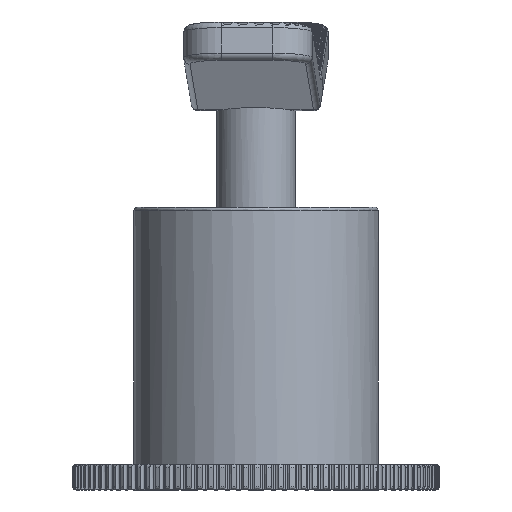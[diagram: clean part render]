
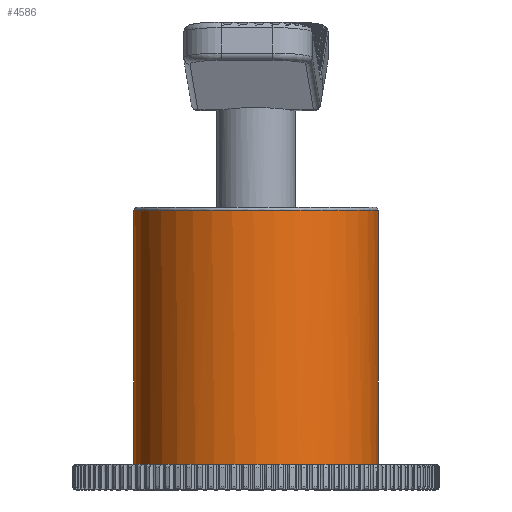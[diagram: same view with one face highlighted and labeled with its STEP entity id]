
A CAD part, front view. The second image highlights one B-rep face of the part: STEP entity #4586.
In plain terms, the highlighted cylindrical face has radius 19 mm (diameter 38 mm), a full revolution.
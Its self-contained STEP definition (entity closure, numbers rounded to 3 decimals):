
#768 = CARTESIAN_POINT ( 'NONE',  ( 102.726, -218.399, -48.633 ) ) ;
#843 = DIRECTION ( 'NONE',  ( 0., 0., -1. ) ) ;
#900 = CARTESIAN_POINT ( 'NONE',  ( 104.036, -222.091, -47.856 ) ) ;
#2037 = EDGE_CURVE ( 'NONE', #3156, #3156, #14022, .T. ) ;
#2269 = CARTESIAN_POINT ( 'NONE',  ( 104.067, -222.223, -51.958 ) ) ;
#2538 = CARTESIAN_POINT ( 'NONE',  ( 103.475, -220.205, -52.595 ) ) ;
#2671 = CARTESIAN_POINT ( 'NONE',  ( 103.18, -219.431, -52.343 ) ) ;
#2805 = CARTESIAN_POINT ( 'NONE',  ( 103.299, -219.731, -47.448 ) ) ;
#2939 = CARTESIAN_POINT ( 'NONE',  ( 102.609, -218.158, -50.65 ) ) ;
#3012 = DIRECTION ( 'NONE',  ( 0., 1., 0. ) ) ;
#3027 = CARTESIAN_POINT ( 'NONE',  ( 85.568, -207.561, -35.662 ) ) ;
#3068 = CARTESIAN_POINT ( 'NONE',  ( 102.855, -218.675, -51.713 ) ) ;
#3156 = VERTEX_POINT ( 'NONE', #15495 ) ;
#4050 = AXIS2_PLACEMENT_3D ( 'NONE', #10877, #843, #3012 ) ;
#4574 = CARTESIAN_POINT ( 'NONE',  ( 103.841, -221.352, -47.448 ) ) ;
#4586 = ADVANCED_FACE ( 'NONE', ( #19407, #21044, #8726 ), #13315, .T. ) ;
#4705 = CARTESIAN_POINT ( 'NONE',  ( 102.571, -218.081, -50.136 ) ) ;
#4837 = CARTESIAN_POINT ( 'NONE',  ( 104.252, -223.107, -50.136 ) ) ;
#4968 = CARTESIAN_POINT ( 'NONE',  ( 103.794, -221.191, -47.397 ) ) ;
#5101 = CARTESIAN_POINT ( 'NONE',  ( 104.236, -223.023, -49.274 ) ) ;
#5193 = CARTESIAN_POINT ( 'NONE',  ( 85.568, -207.561, -75.162 ) ) ;
#6610 = CARTESIAN_POINT ( 'NONE',  ( 102.726, -218.398, -51.29 ) ) ;
#6742 = CARTESIAN_POINT ( 'NONE',  ( 104.249, -223.09, -49.613 ) ) ;
#6769 = AXIS2_PLACEMENT_3D ( 'NONE', #18712, #25385, #14393 ) ;
#6877 = CARTESIAN_POINT ( 'NONE',  ( 104.121, -222.46, -48.21 ) ) ;
#7013 = CARTESIAN_POINT ( 'NONE',  ( 102.578, -218.096, -50.308 ) ) ;
#7151 = CARTESIAN_POINT ( 'NONE',  ( 103.01, -219.024, -47.856 ) ) ;
#7344 = DIRECTION ( 'NONE',  ( 0., 1., 0. ) ) ;
#8513 = CARTESIAN_POINT ( 'NONE',  ( 104.145, -222.572, -51.577 ) ) ;
#8647 = CARTESIAN_POINT ( 'NONE',  ( 104.252, -223.107, -49.786 ) ) ;
#8726 = FACE_OUTER_BOUND ( 'NONE', #8969, .T. ) ;
#8908 = CARTESIAN_POINT ( 'NONE',  ( 103.122, -219.289, -47.664 ) ) ;
#8934 = CIRCLE ( 'NONE', #6769, 19. ) ;
#8969 = EDGE_LOOP ( 'NONE', ( #21852 ) ) ;
#8975 = CARTESIAN_POINT ( 'NONE',  ( 85.568, -226.561, -75.162 ) ) ;
#9046 = CARTESIAN_POINT ( 'NONE',  ( 103.533, -220.371, -47.312 ) ) ;
#9182 = CARTESIAN_POINT ( 'NONE',  ( 102.956, -218.901, -47.965 ) ) ;
#9767 = EDGE_LOOP ( 'NONE', ( #14508 ) ) ;
#10353 = EDGE_CURVE ( 'NONE', #25830, #25830, #25951, .T. ) ;
#10800 = CARTESIAN_POINT ( 'NONE',  ( 103.532, -220.368, -52.612 ) ) ;
#10877 = CARTESIAN_POINT ( 'NONE',  ( 85.568, -226.561, -35.162 ) ) ;
#11074 = CARTESIAN_POINT ( 'NONE',  ( 103.926, -221.66, -47.58 ) ) ;
#11208 = CARTESIAN_POINT ( 'NONE',  ( 104.201, -222.84, -48.785 ) ) ;
#11337 = CARTESIAN_POINT ( 'NONE',  ( 102.955, -218.899, -51.957 ) ) ;
#12571 = CARTESIAN_POINT ( 'NONE',  ( 103.695, -220.866, -52.595 ) ) ;
#12838 = CARTESIAN_POINT ( 'NONE',  ( 104.145, -222.57, -48.346 ) ) ;
#12969 = CARTESIAN_POINT ( 'NONE',  ( 104.184, -222.76, -48.633 ) ) ;
#13100 = CARTESIAN_POINT ( 'NONE',  ( 103.475, -220.205, -47.33 ) ) ;
#13139 = ORIENTED_EDGE ( 'NONE', *, *, #10353, .T. ) ;
#13239 = CARTESIAN_POINT ( 'NONE',  ( 102.69, -218.324, -48.788 ) ) ;
#13315 = CYLINDRICAL_SURFACE ( 'NONE', #4050, 19. ) ;
#13379 = CARTESIAN_POINT ( 'NONE',  ( 102.855, -218.674, -48.212 ) ) ;
#14022 = B_SPLINE_CURVE_WITH_KNOTS ( 'NONE', 3,
 ( #22759, #18656, #12571, #16625, #24926, #14608, #22892, #20830, #2269, #18793, #8513, #15270, #23291, #19324, #21378, #23423, #4837, #8647, #6742, #5101, #21657, #11208, #12969, #12838, #6877, #19467, #900, #15400, #11074, #4574, #4968, #15139, #25598, #9046, #13100, #25195, #2805, #23558, #8908, #7151, #9182, #13379, #16895, #768, #13239, #23695, #15003, #17287, #21521, #4705, #7013, #2939, #17419, #25737, #6610, #21237, #3068, #11337, #19592, #14870, #2671, #23157, #21102, #2538, #10800, #19055 ),
 .UNSPECIFIED., .T., .F.,
 ( 4, 2, 2, 2, 2, 2, 2, 2, 2, 2, 2, 2, 2, 2, 2, 2, 2, 2, 2, 2, 2, 2, 2, 2, 2, 2, 2, 2, 2, 2, 2, 2, 4 ),
 ( 0., 0.001, 0.001, 0.002, 0.002, 0.003, 0.003, 0.004, 0.004, 0.005, 0.005, 0.006, 0.006, 0.007, 0.007, 0.008, 0.008, 0.009, 0.009, 0.01, 0.01, 0.011, 0.011, 0.012, 0.013, 0.013, 0.014, 0.014, 0.015, 0.015, 0.016, 0.016, 0.017 ),
 .UNSPECIFIED. ) ;
#14393 = DIRECTION ( 'NONE',  ( 0., 1., 0. ) ) ;
#14508 = ORIENTED_EDGE ( 'NONE', *, *, #2037, .T. ) ;
#14608 = CARTESIAN_POINT ( 'NONE',  ( 103.927, -221.662, -52.343 ) ) ;
#14870 = CARTESIAN_POINT ( 'NONE',  ( 103.122, -219.29, -52.262 ) ) ;
#15003 = CARTESIAN_POINT ( 'NONE',  ( 102.609, -218.158, -49.274 ) ) ;
#15139 = CARTESIAN_POINT ( 'NONE',  ( 103.695, -220.863, -47.329 ) ) ;
#15270 = CARTESIAN_POINT ( 'NONE',  ( 104.185, -222.761, -51.289 ) ) ;
#15400 = CARTESIAN_POINT ( 'NONE',  ( 103.965, -221.809, -47.662 ) ) ;
#15495 = CARTESIAN_POINT ( 'NONE',  ( 103.587, -220.534, -52.612 ) ) ;
#16625 = CARTESIAN_POINT ( 'NONE',  ( 103.795, -221.193, -52.527 ) ) ;
#16895 = CARTESIAN_POINT ( 'NONE',  ( 102.808, -218.574, -48.346 ) ) ;
#17287 = CARTESIAN_POINT ( 'NONE',  ( 102.579, -218.097, -49.614 ) ) ;
#17419 = CARTESIAN_POINT ( 'NONE',  ( 102.632, -218.204, -50.817 ) ) ;
#17987 = EDGE_CURVE ( 'NONE', #23381, #23381, #8934, .T. ) ;
#18656 = CARTESIAN_POINT ( 'NONE',  ( 103.643, -220.701, -52.612 ) ) ;
#18712 = CARTESIAN_POINT ( 'NONE',  ( 85.568, -226.561, -35.662 ) ) ;
#18793 = CARTESIAN_POINT ( 'NONE',  ( 104.121, -222.462, -51.713 ) ) ;
#19055 = CARTESIAN_POINT ( 'NONE',  ( 103.587, -220.534, -52.612 ) ) ;
#19252 = EDGE_LOOP ( 'NONE', ( #13139 ) ) ;
#19324 = CARTESIAN_POINT ( 'NONE',  ( 104.227, -222.973, -50.816 ) ) ;
#19407 = FACE_BOUND ( 'NONE', #9767, .T. ) ;
#19467 = CARTESIAN_POINT ( 'NONE',  ( 104.066, -222.221, -47.965 ) ) ;
#19592 = CARTESIAN_POINT ( 'NONE',  ( 103.01, -219.024, -52.069 ) ) ;
#20830 = CARTESIAN_POINT ( 'NONE',  ( 104.036, -222.093, -52.067 ) ) ;
#21044 = FACE_OUTER_BOUND ( 'NONE', #19252, .T. ) ;
#21102 = CARTESIAN_POINT ( 'NONE',  ( 103.358, -219.887, -52.527 ) ) ;
#21237 = CARTESIAN_POINT ( 'NONE',  ( 102.809, -218.575, -51.58 ) ) ;
#21378 = CARTESIAN_POINT ( 'NONE',  ( 104.236, -223.024, -50.648 ) ) ;
#21521 = CARTESIAN_POINT ( 'NONE',  ( 102.571, -218.081, -49.79 ) ) ;
#21583 = DIRECTION ( 'NONE',  ( 0., 0., 1. ) ) ;
#21657 = CARTESIAN_POINT ( 'NONE',  ( 104.226, -222.972, -49.106 ) ) ;
#21852 = ORIENTED_EDGE ( 'NONE', *, *, #17987, .T. ) ;
#22044 = AXIS2_PLACEMENT_3D ( 'NONE', #8975, #21583, #7344 ) ;
#22759 = CARTESIAN_POINT ( 'NONE',  ( 103.587, -220.534, -52.612 ) ) ;
#22892 = CARTESIAN_POINT ( 'NONE',  ( 103.966, -221.811, -52.261 ) ) ;
#23157 = CARTESIAN_POINT ( 'NONE',  ( 103.298, -219.729, -52.476 ) ) ;
#23291 = CARTESIAN_POINT ( 'NONE',  ( 104.201, -222.842, -51.137 ) ) ;
#23381 = VERTEX_POINT ( 'NONE', #3027 ) ;
#23423 = CARTESIAN_POINT ( 'NONE',  ( 104.249, -223.09, -50.309 ) ) ;
#23558 = CARTESIAN_POINT ( 'NONE',  ( 103.181, -219.432, -47.581 ) ) ;
#23695 = CARTESIAN_POINT ( 'NONE',  ( 102.631, -218.203, -49.109 ) ) ;
#24926 = CARTESIAN_POINT ( 'NONE',  ( 103.842, -221.354, -52.476 ) ) ;
#25195 = CARTESIAN_POINT ( 'NONE',  ( 103.358, -219.886, -47.398 ) ) ;
#25385 = DIRECTION ( 'NONE',  ( 0., 0., -1. ) ) ;
#25598 = CARTESIAN_POINT ( 'NONE',  ( 103.642, -220.699, -47.312 ) ) ;
#25737 = CARTESIAN_POINT ( 'NONE',  ( 102.69, -218.324, -51.136 ) ) ;
#25830 = VERTEX_POINT ( 'NONE', #5193 ) ;
#25951 = CIRCLE ( 'NONE', #22044, 19. ) ;
